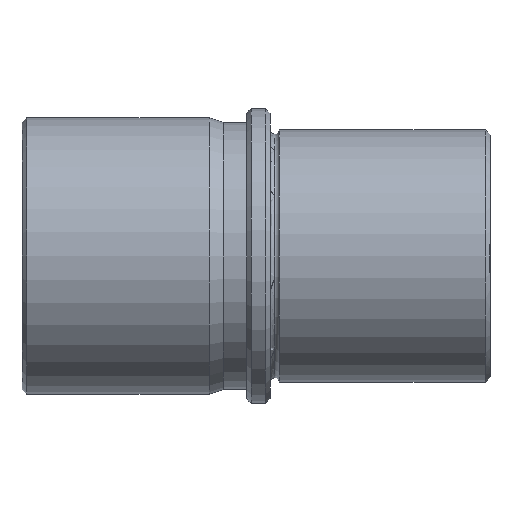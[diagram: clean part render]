
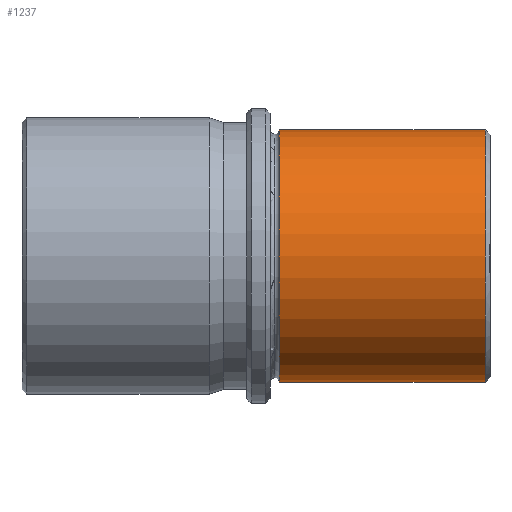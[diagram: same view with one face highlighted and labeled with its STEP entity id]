
A CAD part, left-side view. The second image highlights one B-rep face of the part: STEP entity #1237.
In plain terms, the highlighted cylindrical face has radius 27 mm (diameter 54 mm), a partial arc.
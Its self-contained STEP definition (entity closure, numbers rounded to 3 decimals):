
#1081=CARTESIAN_POINT('Vertex',(0.,45.,27.)) ;
#1088=CARTESIAN_POINT('Vertex',(0.,45.,-27.)) ;
#1114=CARTESIAN_POINT('Axis2P3D Location',(0.,45.,0.)) ;
#1118=CARTESIAN_POINT('Vertex',(-27.,45.,0.)) ;
#1121=CARTESIAN_POINT('Axis2P3D Location',(0.,45.,0.)) ;
#1143=CARTESIAN_POINT('Vertex',(0.,1.,27.)) ;
#1150=CARTESIAN_POINT('Vertex',(0.,1.,-27.)) ;
#1179=CARTESIAN_POINT('Axis2P3D Location',(0.,1.,0.)) ;
#1183=CARTESIAN_POINT('Vertex',(-27.,1.,0.)) ;
#1186=CARTESIAN_POINT('Axis2P3D Location',(0.,1.,0.)) ;
#1205=CARTESIAN_POINT('Line Origine',(0.,0.,-27.)) ;
#1210=CARTESIAN_POINT('Line Origine',(0.,0.,27.)) ;
#1224=CARTESIAN_POINT('Axis2P3D Location',(0.,0.,0.)) ;
#1115=DIRECTION('Axis2P3D Direction',(0.,-1.,0.)) ;
#1122=DIRECTION('Axis2P3D Direction',(0.,-1.,0.)) ;
#1180=DIRECTION('Axis2P3D Direction',(-0.,1.,0.)) ;
#1187=DIRECTION('Axis2P3D Direction',(-0.,1.,0.)) ;
#1206=DIRECTION('Vector Direction',(0.,1.,0.)) ;
#1211=DIRECTION('Vector Direction',(0.,1.,0.)) ;
#1225=DIRECTION('Axis2P3D Direction',(0.,1.,0.)) ;
#1226=DIRECTION('Axis2P3D XDirection',(0.,0.,-1.)) ;
#1116=AXIS2_PLACEMENT_3D('Circle Axis2P3D',#1114,#1115,$) ;
#1123=AXIS2_PLACEMENT_3D('Circle Axis2P3D',#1121,#1122,$) ;
#1181=AXIS2_PLACEMENT_3D('Circle Axis2P3D',#1179,#1180,$) ;
#1188=AXIS2_PLACEMENT_3D('Circle Axis2P3D',#1186,#1187,$) ;
#1227=AXIS2_PLACEMENT_3D('Cylinder Axis2P3D',#1224,#1225,#1226) ;
#1230=ORIENTED_EDGE('',*,*,#1214,.T.) ;
#1231=ORIENTED_EDGE('',*,*,#1125,.T.) ;
#1232=ORIENTED_EDGE('',*,*,#1120,.T.) ;
#1233=ORIENTED_EDGE('',*,*,#1209,.T.) ;
#1234=ORIENTED_EDGE('',*,*,#1190,.F.) ;
#1235=ORIENTED_EDGE('',*,*,#1185,.F.) ;
#1207=VECTOR('Line Direction',#1206,1.) ;
#1212=VECTOR('Line Direction',#1211,1.) ;
#1237=ADVANCED_FACE('CF 450 42x100',(#1236),#1228,.T.) ;
#1117=CIRCLE('generated circle',#1116,27.) ;
#1124=CIRCLE('generated circle',#1123,27.) ;
#1182=CIRCLE('generated circle',#1181,27.) ;
#1189=CIRCLE('generated circle',#1188,27.) ;
#1228=CYLINDRICAL_SURFACE('generated cylinder',#1227,27.) ;
#1120=EDGE_CURVE('',#1119,#1089,#1117,.T.) ;
#1125=EDGE_CURVE('',#1082,#1119,#1124,.T.) ;
#1185=EDGE_CURVE('',#1144,#1184,#1182,.F.) ;
#1190=EDGE_CURVE('',#1184,#1151,#1189,.F.) ;
#1209=EDGE_CURVE('',#1089,#1151,#1208,.F.) ;
#1214=EDGE_CURVE('',#1144,#1082,#1213,.T.) ;
#1229=EDGE_LOOP('',(#1230,#1231,#1232,#1233,#1234,#1235)) ;
#1236=FACE_OUTER_BOUND('',#1229,.T.) ;
#1208=LINE('Line',#1205,#1207) ;
#1213=LINE('Line',#1210,#1212) ;
#1082=VERTEX_POINT('',#1081) ;
#1089=VERTEX_POINT('',#1088) ;
#1119=VERTEX_POINT('',#1118) ;
#1144=VERTEX_POINT('',#1143) ;
#1151=VERTEX_POINT('',#1150) ;
#1184=VERTEX_POINT('',#1183) ;
